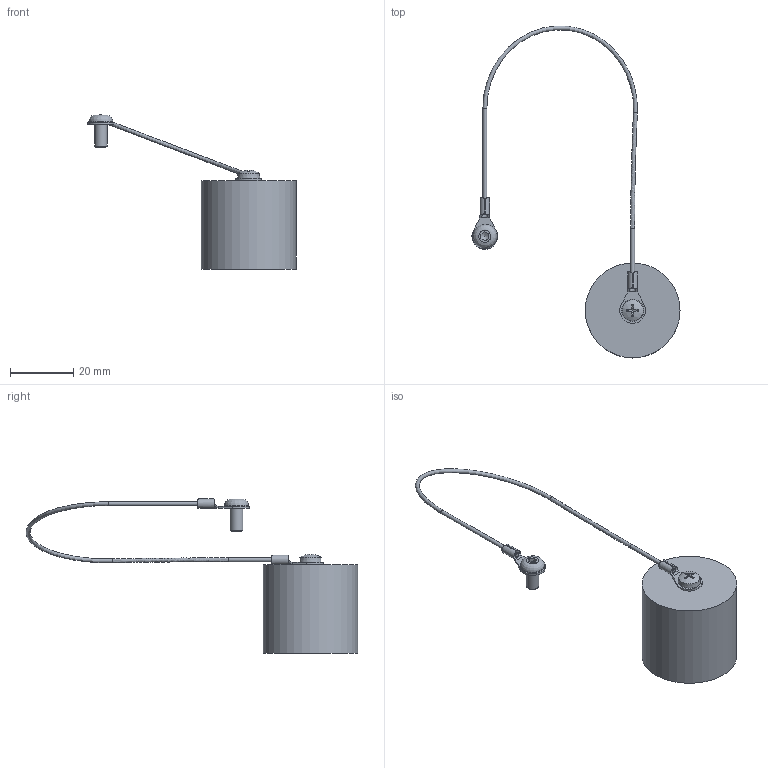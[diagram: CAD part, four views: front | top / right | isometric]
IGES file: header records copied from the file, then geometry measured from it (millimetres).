
Global section: file name: 16.50; native system: Autodesk Inventor 2014; preprocessor: unknown; author: APto; date: 20150514.114408; units: millimetre
Bounding box: 65.83 x 104.92 x 48.75 mm (x, y, z)
Volume: 14087.3 mm3; surface area: 6883.7 mm2
Topology: 6 solids, 6 shells, 98 faces, 239 edges, 156 vertices
Faces by surface type: plane 37, cylinder 18, bspline 18, revolution 17, cone 7, sphere 1
Full cylindrical faces by diameter (mm): 1.25 x2, 3.5 x1, 4 x1, 7.6 x1, 30 x1
